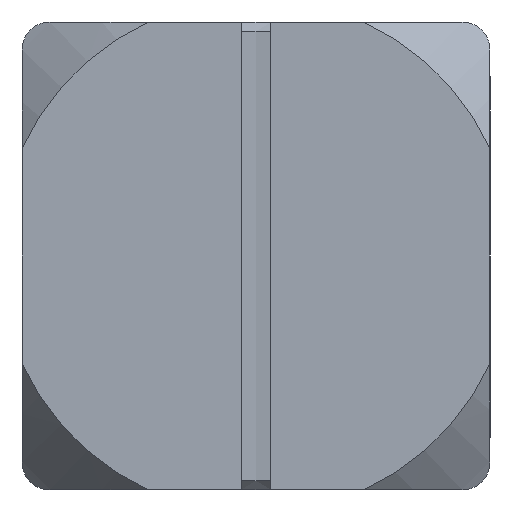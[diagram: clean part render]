
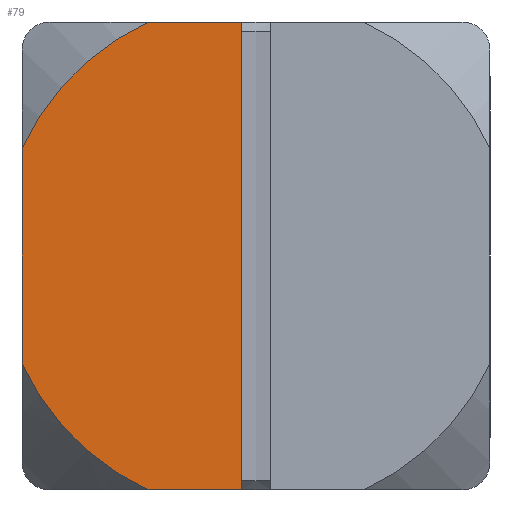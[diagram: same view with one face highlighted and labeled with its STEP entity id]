
A CAD part, left-side view. The second image highlights one B-rep face of the part: STEP entity #79.
In plain terms, the highlighted planar face has unit normal (-1, 0, 0).
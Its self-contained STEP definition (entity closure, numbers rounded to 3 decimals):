
#79 = ADVANCED_FACE( '', ( #136 ), #137, .F. );
#136 = FACE_OUTER_BOUND( '', #251, .T. );
#137 = PLANE( '', #252 );
#251 = EDGE_LOOP( '', ( #392, #393, #394, #395, #396, #397 ) );
#252 = AXIS2_PLACEMENT_3D( '', #398, #399, #400 );
#392 = ORIENTED_EDGE( '', *, *, #805, .T. );
#393 = ORIENTED_EDGE( '', *, *, #801, .F. );
#394 = ORIENTED_EDGE( '', *, *, #806, .F. );
#395 = ORIENTED_EDGE( '', *, *, #807, .F. );
#396 = ORIENTED_EDGE( '', *, *, #808, .T. );
#397 = ORIENTED_EDGE( '', *, *, #809, .F. );
#398 = CARTESIAN_POINT( '', ( -25., 12.5, 12.5 ) );
#399 = DIRECTION( '', ( 1., 0., 0. ) );
#400 = DIRECTION( '', ( 0., 0., -1. ) );
#801 = EDGE_CURVE( '', #955, #957, #958, .T. );
#805 = EDGE_CURVE( '', #964, #957, #965, .T. );
#806 = EDGE_CURVE( '', #966, #955, #967, .T. );
#807 = EDGE_CURVE( '', #968, #966, #969, .T. );
#808 = EDGE_CURVE( '', #968, #970, #971, .T. );
#809 = EDGE_CURVE( '', #964, #970, #972, .T. );
#955 = VERTEX_POINT( '', #1214 );
#957 = VERTEX_POINT( '', #1217 );
#958 = LINE( '', #1218, #1219 );
#964 = VERTEX_POINT( '', #1230 );
#965 = LINE( '', #1231, #1232 );
#966 = VERTEX_POINT( '', #1233 );
#967 = LINE( '', #1234, #1235 );
#968 = VERTEX_POINT( '', #1236 );
#969 = CIRCLE( '', #1237, 13.75 );
#970 = VERTEX_POINT( '', #1238 );
#971 = LINE( '', #1239, #1240 );
#972 = CIRCLE( '', #1241, 13.75 );
#1214 = CARTESIAN_POINT( '', ( -25., 0.75, 12.5 ) );
#1217 = CARTESIAN_POINT( '', ( -25., 0.75, -12.5 ) );
#1218 = CARTESIAN_POINT( '', ( -25., 0.75, 12.5 ) );
#1219 = VECTOR( '', #1678, 1000. );
#1230 = CARTESIAN_POINT( '', ( -25., 5.728, -12.5 ) );
#1231 = CARTESIAN_POINT( '', ( -25., 12.5, -12.5 ) );
#1232 = VECTOR( '', #1681, 1000. );
#1233 = CARTESIAN_POINT( '', ( -25., 5.728, 12.5 ) );
#1234 = CARTESIAN_POINT( '', ( -25., 12.5, 12.5 ) );
#1235 = VECTOR( '', #1682, 1000. );
#1236 = CARTESIAN_POINT( '', ( -25., 12.5, 5.728 ) );
#1237 = AXIS2_PLACEMENT_3D( '', #1683, #1684, #1685 );
#1238 = CARTESIAN_POINT( '', ( -25., 12.5, -5.728 ) );
#1239 = CARTESIAN_POINT( '', ( -25., 12.5, 12.5 ) );
#1240 = VECTOR( '', #1686, 1000. );
#1241 = AXIS2_PLACEMENT_3D( '', #1687, #1688, #1689 );
#1678 = DIRECTION( '', ( 0., 0., -1. ) );
#1681 = DIRECTION( '', ( 0., -1., 0. ) );
#1682 = DIRECTION( '', ( 0., -1., 0. ) );
#1683 = CARTESIAN_POINT( '', ( -25., 0., 0. ) );
#1684 = DIRECTION( '', ( 1., 0., 0. ) );
#1685 = DIRECTION( '', ( 0., 0., -1. ) );
#1686 = DIRECTION( '', ( 0., 0., -1. ) );
#1687 = CARTESIAN_POINT( '', ( -25., 0., 0. ) );
#1688 = DIRECTION( '', ( 1., 0., 0. ) );
#1689 = DIRECTION( '', ( 0., 0., -1. ) );
